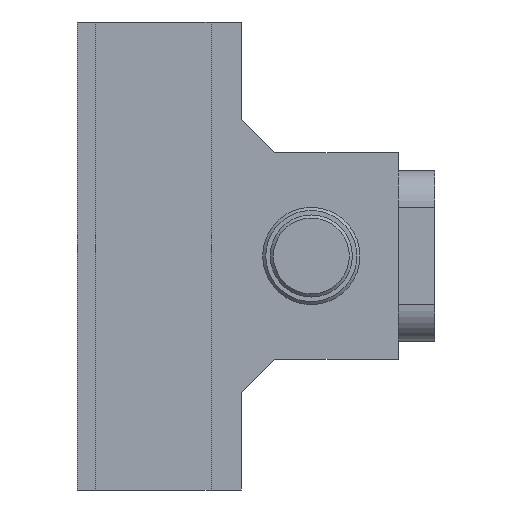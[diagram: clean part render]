
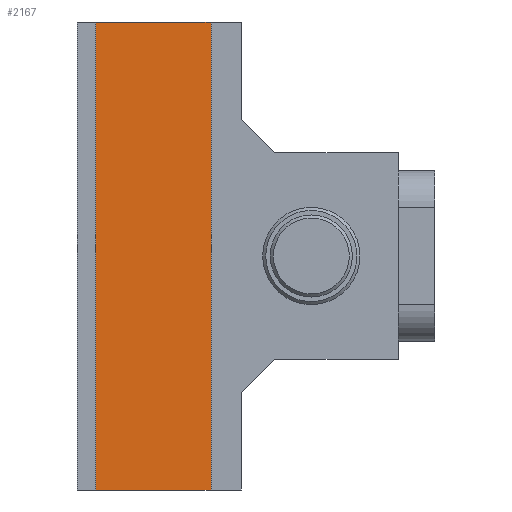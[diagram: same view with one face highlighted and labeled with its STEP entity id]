
A CAD part, left-side view. The second image highlights one B-rep face of the part: STEP entity #2167.
In plain terms, the highlighted planar face has unit normal (-1, 0, 0).
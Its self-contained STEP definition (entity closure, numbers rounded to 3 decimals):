
#27 = CARTESIAN_POINT ( 'NONE',  ( -16.5, 43., 38.5 ) ) ;
#33 = CARTESIAN_POINT ( 'NONE',  ( -16.5, 62., 38.5 ) ) ;
#34 = LINE ( 'NONE', #2257, #1131 ) ;
#75 = ORIENTED_EDGE ( 'NONE', *, *, #2489, .F. ) ;
#148 = VECTOR ( 'NONE', #182, 1000. ) ;
#182 = DIRECTION ( 'NONE',  ( 0., -1., 0. ) ) ;
#260 = LINE ( 'NONE', #33, #1420 ) ;
#369 = ORIENTED_EDGE ( 'NONE', *, *, #986, .F. ) ;
#437 = CARTESIAN_POINT ( 'NONE',  ( -16.5, 62., 38.5 ) ) ;
#446 = DIRECTION ( 'NONE',  ( 0., 0., -1. ) ) ;
#671 = VERTEX_POINT ( 'NONE', #1477 ) ;
#689 = VECTOR ( 'NONE', #1304, 1000. ) ;
#779 = VERTEX_POINT ( 'NONE', #2042 ) ;
#781 = DIRECTION ( 'NONE',  ( 0., 0., -1. ) ) ;
#799 = ORIENTED_EDGE ( 'NONE', *, *, #824, .T. ) ;
#824 = EDGE_CURVE ( 'NONE', #2160, #671, #260, .T. ) ;
#950 = EDGE_LOOP ( 'NONE', ( #799, #1105, #75, #369 ) ) ;
#986 = EDGE_CURVE ( 'NONE', #2160, #1982, #1518, .T. ) ;
#999 = AXIS2_PLACEMENT_3D ( 'NONE', #1207, #2455, #2011 ) ;
#1105 = ORIENTED_EDGE ( 'NONE', *, *, #1546, .T. ) ;
#1131 = VECTOR ( 'NONE', #781, 1000. ) ;
#1207 = CARTESIAN_POINT ( 'NONE',  ( -16.5, 62., 38.5 ) ) ;
#1250 = FACE_OUTER_BOUND ( 'NONE', #950, .T. ) ;
#1304 = DIRECTION ( 'NONE',  ( 0., -1., 0. ) ) ;
#1399 = CARTESIAN_POINT ( 'NONE',  ( -16.5, 62., -38.5 ) ) ;
#1420 = VECTOR ( 'NONE', #446, 1000. ) ;
#1477 = CARTESIAN_POINT ( 'NONE',  ( -16.5, 62., -38.5 ) ) ;
#1518 = LINE ( 'NONE', #2307, #689 ) ;
#1546 = EDGE_CURVE ( 'NONE', #671, #779, #1758, .T. ) ;
#1758 = LINE ( 'NONE', #1399, #148 ) ;
#1846 = PLANE ( 'NONE',  #999 ) ;
#1982 = VERTEX_POINT ( 'NONE', #27 ) ;
#2011 = DIRECTION ( 'NONE',  ( 0., 1., 0. ) ) ;
#2042 = CARTESIAN_POINT ( 'NONE',  ( -16.5, 43., -38.5 ) ) ;
#2160 = VERTEX_POINT ( 'NONE', #437 ) ;
#2167 = ADVANCED_FACE ( 'NONE', ( #1250 ), #1846, .F. ) ;
#2257 = CARTESIAN_POINT ( 'NONE',  ( -16.5, 43., 38.5 ) ) ;
#2307 = CARTESIAN_POINT ( 'NONE',  ( -16.5, 62., 38.5 ) ) ;
#2455 = DIRECTION ( 'NONE',  ( 1., 0., 0. ) ) ;
#2489 = EDGE_CURVE ( 'NONE', #1982, #779, #34, .T. ) ;
